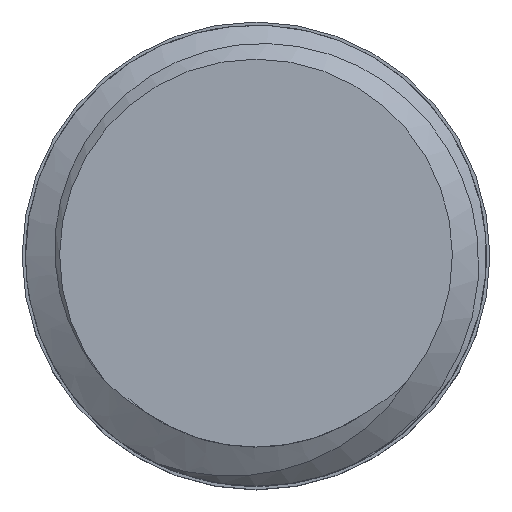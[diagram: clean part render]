
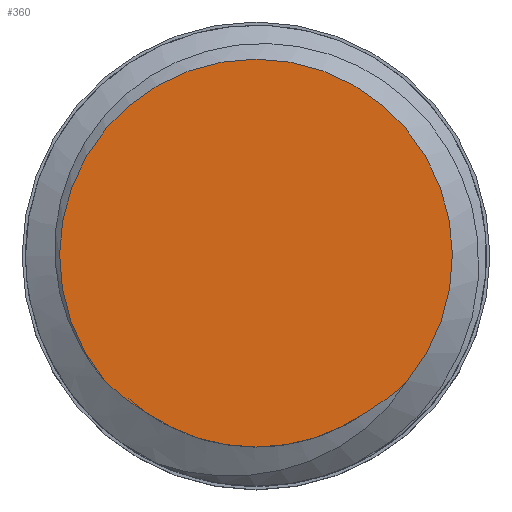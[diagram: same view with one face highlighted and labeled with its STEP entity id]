
A CAD part, top view. The second image highlights one B-rep face of the part: STEP entity #360.
In plain terms, the highlighted planar face has unit normal (0, 0, 1).
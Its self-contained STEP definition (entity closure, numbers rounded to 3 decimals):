
#28=PLANE('',#402);
#49=FACE_OUTER_BOUND('',#72,.T.);
#72=EDGE_LOOP('',(#327,#328,#329,#330));
#73=CIRCLE('',#376,5.617);
#79=CIRCLE('',#396,5.761);
#99=B_SPLINE_CURVE_WITH_KNOTS('',3,(#1494,#1495,#1496,#1497,#1498,#1499,
#1500,#1501,#1502,#1503,#1504,#1505,#1506),.UNSPECIFIED.,.F.,.F.,(4,3,3,
3,4),(1.145,1.194,1.245,1.292,
1.295),.UNSPECIFIED.);
#101=B_SPLINE_CURVE_WITH_KNOTS('',3,(#1698,#1699,#1700,#1701,#1702,#1703,
#1704,#1705,#1706,#1707,#1708,#1709,#1710),.UNSPECIFIED.,.F.,.F.,(4,3,3,
3,4),(0.,0.049,0.064,0.112,0.15),
 .UNSPECIFIED.);
#146=VERTEX_POINT('',#486);
#147=VERTEX_POINT('',#495);
#173=VERTEX_POINT('',#825);
#174=VERTEX_POINT('',#1097);
#180=EDGE_CURVE('',#147,#146,#73,.T.);
#217=EDGE_CURVE('',#173,#174,#79,.T.);
#223=EDGE_CURVE('',#173,#147,#99,.T.);
#225=EDGE_CURVE('',#146,#174,#101,.T.);
#327=ORIENTED_EDGE('',*,*,#217,.F.);
#328=ORIENTED_EDGE('',*,*,#223,.T.);
#329=ORIENTED_EDGE('',*,*,#180,.T.);
#330=ORIENTED_EDGE('',*,*,#225,.T.);
#360=ADVANCED_FACE('',(#49),#28,.T.);
#376=AXIS2_PLACEMENT_3D('',#496,#408,#409);
#396=AXIS2_PLACEMENT_3D('',#1098,#467,#468);
#402=AXIS2_PLACEMENT_3D('',#1835,#479,#480);
#408=DIRECTION('center_axis',(0.,0.,1.));
#409=DIRECTION('ref_axis',(1.,0.,0.));
#467=DIRECTION('center_axis',(0.,0.,-1.));
#468=DIRECTION('ref_axis',(1.,0.,0.));
#479=DIRECTION('center_axis',(0.,0.,1.));
#480=DIRECTION('ref_axis',(1.,0.,0.));
#486=CARTESIAN_POINT('',(3.261,-4.573,6.));
#495=CARTESIAN_POINT('',(-3.261,-4.573,6.));
#496=CARTESIAN_POINT('Origin',(0.,0.,6.));
#825=CARTESIAN_POINT('',(-4.443,-3.668,6.));
#1097=CARTESIAN_POINT('',(4.443,-3.668,6.));
#1098=CARTESIAN_POINT('Origin',(0.,0.,6.));
#1494=CARTESIAN_POINT('Ctrl Pts',(-4.442,-3.667,6.));
#1495=CARTESIAN_POINT('Ctrl Pts',(-4.327,-3.782,6.));
#1496=CARTESIAN_POINT('Ctrl Pts',(-4.208,-3.892,6.));
#1497=CARTESIAN_POINT('Ctrl Pts',(-4.084,-3.996,6.));
#1498=CARTESIAN_POINT('Ctrl Pts',(-3.956,-4.104,6.));
#1499=CARTESIAN_POINT('Ctrl Pts',(-3.823,-4.207,6.));
#1500=CARTESIAN_POINT('Ctrl Pts',(-3.686,-4.303,6.));
#1501=CARTESIAN_POINT('Ctrl Pts',(-3.557,-4.394,6.));
#1502=CARTESIAN_POINT('Ctrl Pts',(-3.424,-4.479,6.));
#1503=CARTESIAN_POINT('Ctrl Pts',(-3.287,-4.558,6.));
#1504=CARTESIAN_POINT('Ctrl Pts',(-3.279,-4.563,6.));
#1505=CARTESIAN_POINT('Ctrl Pts',(-3.27,-4.568,6.));
#1506=CARTESIAN_POINT('Ctrl Pts',(-3.261,-4.573,6.));
#1698=CARTESIAN_POINT('Ctrl Pts',(3.261,-4.573,6.));
#1699=CARTESIAN_POINT('Ctrl Pts',(3.402,-4.493,6.));
#1700=CARTESIAN_POINT('Ctrl Pts',(3.538,-4.406,6.));
#1701=CARTESIAN_POINT('Ctrl Pts',(3.671,-4.314,6.));
#1702=CARTESIAN_POINT('Ctrl Pts',(3.712,-4.285,6.));
#1703=CARTESIAN_POINT('Ctrl Pts',(3.753,-4.256,6.));
#1704=CARTESIAN_POINT('Ctrl Pts',(3.794,-4.226,6.));
#1705=CARTESIAN_POINT('Ctrl Pts',(3.923,-4.131,6.));
#1706=CARTESIAN_POINT('Ctrl Pts',(4.048,-4.031,6.));
#1707=CARTESIAN_POINT('Ctrl Pts',(4.168,-3.925,6.));
#1708=CARTESIAN_POINT('Ctrl Pts',(4.262,-3.842,6.));
#1709=CARTESIAN_POINT('Ctrl Pts',(4.354,-3.757,6.));
#1710=CARTESIAN_POINT('Ctrl Pts',(4.442,-3.668,6.));
#1835=CARTESIAN_POINT('Origin',(0.,0.,6.));
